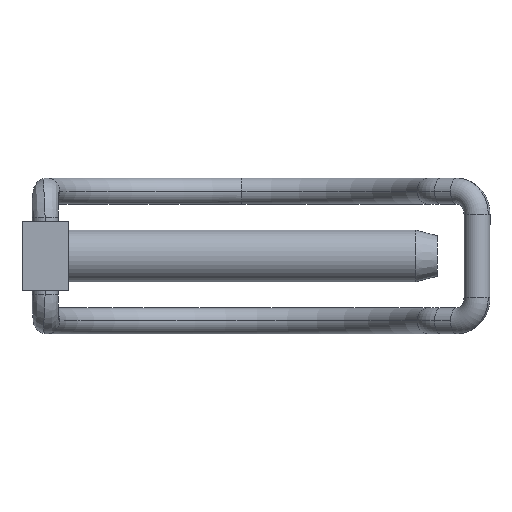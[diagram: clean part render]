
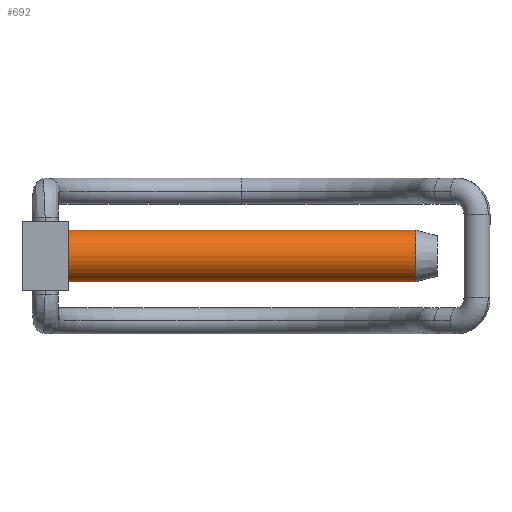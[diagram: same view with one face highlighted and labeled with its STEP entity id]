
A CAD part, left-side view. The second image highlights one B-rep face of the part: STEP entity #692.
In plain terms, the highlighted cylindrical face has radius 2.25 mm (diameter 4.5 mm), a partial arc.
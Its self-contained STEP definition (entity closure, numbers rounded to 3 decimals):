
#47 = ORIENTED_EDGE ( 'NONE', *, *, #183, .T. ) ;
#73 = DIRECTION ( 'NONE',  ( 0., 1., 0. ) ) ;
#159 = CARTESIAN_POINT ( 'NONE',  ( 0., 0., -2.25 ) ) ;
#183 = EDGE_CURVE ( 'NONE', #794, #1722, #1390, .T. ) ;
#190 = DIRECTION ( 'NONE',  ( 0., 0., 1. ) ) ;
#216 = CARTESIAN_POINT ( 'NONE',  ( 0., -30.134, 0. ) ) ;
#294 = DIRECTION ( 'NONE',  ( 0., 0., 1. ) ) ;
#314 = VECTOR ( 'NONE', #958, 1000. ) ;
#335 = VERTEX_POINT ( 'NONE', #159 ) ;
#536 = AXIS2_PLACEMENT_3D ( 'NONE', #1548, #991, #294 ) ;
#557 = FACE_OUTER_BOUND ( 'NONE', #1044, .T. ) ;
#572 = CYLINDRICAL_SURFACE ( 'NONE', #536, 2.25 ) ;
#692 = ADVANCED_FACE ( 'NONE', ( #557 ), #572, .T. ) ;
#715 = CARTESIAN_POINT ( 'NONE',  ( 0., -30.134, 2.25 ) ) ;
#794 = VERTEX_POINT ( 'NONE', #715 ) ;
#829 = CIRCLE ( 'NONE', #978, 2.25 ) ;
#847 = VERTEX_POINT ( 'NONE', #1703 ) ;
#958 = DIRECTION ( 'NONE',  ( 0., 1., 0. ) ) ;
#978 = AXIS2_PLACEMENT_3D ( 'NONE', #216, #73, #190 ) ;
#991 = DIRECTION ( 'NONE',  ( 0., 1., 0. ) ) ;
#1044 = EDGE_LOOP ( 'NONE', ( #1446, #1216, #47, #1280 ) ) ;
#1116 = DIRECTION ( 'NONE',  ( 0., 1., 0. ) ) ;
#1123 = DIRECTION ( 'NONE',  ( 0., 1., 0. ) ) ;
#1130 = CARTESIAN_POINT ( 'NONE',  ( 0., 0., 2.25 ) ) ;
#1216 = ORIENTED_EDGE ( 'NONE', *, *, #1368, .T. ) ;
#1263 = LINE ( 'NONE', #1374, #314 ) ;
#1280 = ORIENTED_EDGE ( 'NONE', *, *, #1695, .F. ) ;
#1356 = VECTOR ( 'NONE', #1123, 1000. ) ;
#1368 = EDGE_CURVE ( 'NONE', #847, #794, #829, .T. ) ;
#1374 = CARTESIAN_POINT ( 'NONE',  ( 0., -32., -2.25 ) ) ;
#1390 = LINE ( 'NONE', #1818, #1356 ) ;
#1446 = ORIENTED_EDGE ( 'NONE', *, *, #1530, .F. ) ;
#1447 = CIRCLE ( 'NONE', #1763, 2.25 ) ;
#1530 = EDGE_CURVE ( 'NONE', #847, #335, #1263, .T. ) ;
#1548 = CARTESIAN_POINT ( 'NONE',  ( 0., -32., 0. ) ) ;
#1652 = CARTESIAN_POINT ( 'NONE',  ( 0., 0., 0. ) ) ;
#1678 = DIRECTION ( 'NONE',  ( 0., 0., 1. ) ) ;
#1695 = EDGE_CURVE ( 'NONE', #335, #1722, #1447, .T. ) ;
#1703 = CARTESIAN_POINT ( 'NONE',  ( 0., -30.134, -2.25 ) ) ;
#1722 = VERTEX_POINT ( 'NONE', #1130 ) ;
#1763 = AXIS2_PLACEMENT_3D ( 'NONE', #1652, #1116, #1678 ) ;
#1818 = CARTESIAN_POINT ( 'NONE',  ( 0., -32., 2.25 ) ) ;
